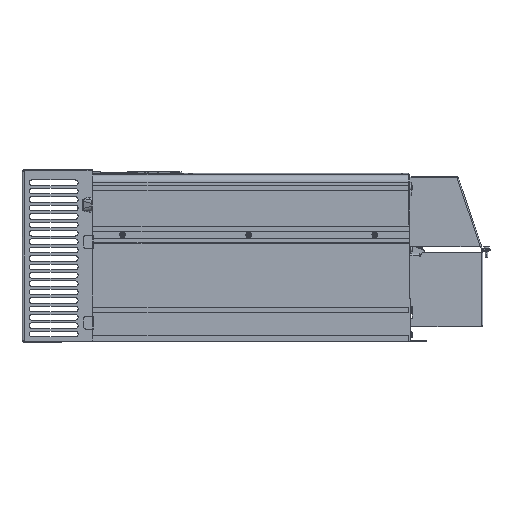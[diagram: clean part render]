
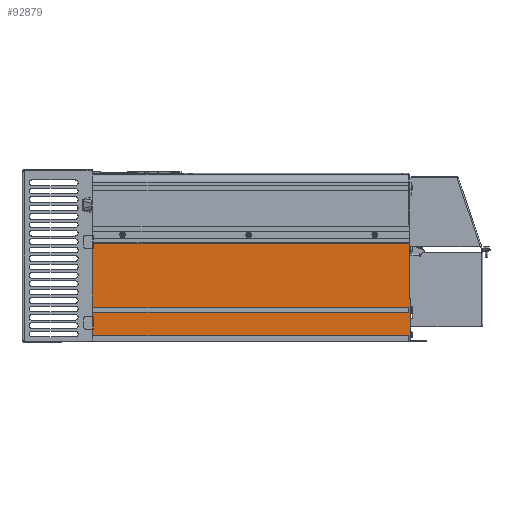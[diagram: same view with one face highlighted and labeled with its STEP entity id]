
A CAD part, left-side view. The second image highlights one B-rep face of the part: STEP entity #92879.
In plain terms, the highlighted planar face has unit normal (-1, 0, 0).
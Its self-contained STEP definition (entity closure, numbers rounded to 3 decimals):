
#3434=DIRECTION('',(0.,0.,1.));
#3435=VECTOR('',#3434,8.);
#3436=CARTESIAN_POINT('',(-115.,-227.95,1.1));
#3437=LINE('',#3436,#3435);
#3458=DIRECTION('',(0.,0.,1.));
#3459=VECTOR('',#3458,6.6);
#3460=CARTESIAN_POINT('',(-115.,-227.95,42.1));
#3461=LINE('',#3460,#3459);
#5283=DIRECTION('',(0.,-1.,0.));
#5284=VECTOR('',#5283,1.);
#5285=CARTESIAN_POINT('',(-115.,-229.45,62.5));
#5286=LINE('',#5285,#5284);
#5287=DIRECTION('',(0.,0.,-1.));
#5288=VECTOR('',#5287,60.);
#5289=CARTESIAN_POINT('',(-115.,-230.45,62.5));
#5290=LINE('',#5289,#5288);
#5291=DIRECTION('',(0.,-1.,0.));
#5292=VECTOR('',#5291,17.8);
#5293=CARTESIAN_POINT('',(-115.,-230.45,2.5));
#5294=LINE('',#5293,#5292);
#5295=DIRECTION('',(0.,0.,1.));
#5296=VECTOR('',#5295,2.5);
#5297=CARTESIAN_POINT('',(-115.,-248.25,0.));
#5298=LINE('',#5297,#5296);
#5299=DIRECTION('',(0.,0.,1.));
#5300=VECTOR('',#5299,1.);
#5301=CARTESIAN_POINT('',(-115.,211.75,0.));
#5302=LINE('',#5301,#5300);
#5303=DIRECTION('',(0.,1.,0.));
#5304=VECTOR('',#5303,12.);
#5305=CARTESIAN_POINT('',(-115.,211.75,1.));
#5306=LINE('',#5305,#5304);
#5307=DIRECTION('',(0.,0.,1.));
#5308=VECTOR('',#5307,1.);
#5309=CARTESIAN_POINT('',(-115.,223.75,0.));
#5310=LINE('',#5309,#5308);
#5311=DIRECTION('',(0.,-1.,0.));
#5312=VECTOR('',#5311,451.7);
#5313=CARTESIAN_POINT('',(-115.,223.75,1.1));
#5314=LINE('',#5313,#5312);
#5315=DIRECTION('',(0.,-1.,0.));
#5316=VECTOR('',#5315,451.7);
#5317=CARTESIAN_POINT('',(-115.,223.75,9.1));
#5318=LINE('',#5317,#5316);
#5319=DIRECTION('',(0.,0.,-1.));
#5320=VECTOR('',#5319,12.4);
#5321=CARTESIAN_POINT('',(-115.,223.75,21.5));
#5322=LINE('',#5321,#5320);
#5323=DIRECTION('',(0.,0.,-1.));
#5324=VECTOR('',#5323,8.6);
#5325=CARTESIAN_POINT('',(-115.,223.75,42.1));
#5326=LINE('',#5325,#5324);
#5327=DIRECTION('',(0.,-1.,0.));
#5328=VECTOR('',#5327,451.7);
#5329=CARTESIAN_POINT('',(-115.,223.75,42.1));
#5330=LINE('',#5329,#5328);
#5331=DIRECTION('',(0.,-1.,0.));
#5332=VECTOR('',#5331,451.7);
#5333=CARTESIAN_POINT('',(-115.,223.75,48.7));
#5334=LINE('',#5333,#5332);
#5335=DIRECTION('',(0.,0.,-1.));
#5336=VECTOR('',#5335,87.8);
#5337=CARTESIAN_POINT('',(-115.,223.75,136.5));
#5338=LINE('',#5337,#5336);
#6271=DIRECTION('',(0.,0.,-1.));
#6272=VECTOR('',#6271,12.);
#6273=CARTESIAN_POINT('',(-115.,223.75,33.5));
#6274=LINE('',#6273,#6272);
#6671=DIRECTION('',(0.,0.,1.));
#6672=VECTOR('',#6671,1.4);
#6673=CARTESIAN_POINT('',(-115.,223.75,1.1));
#6674=LINE('',#6673,#6672);
#6773=DIRECTION('',(0.,0.,-1.));
#6774=VECTOR('',#6773,4.6);
#6775=CARTESIAN_POINT('',(-115.,223.75,141.1));
#6776=LINE('',#6775,#6774);
#15772=DIRECTION('',(0.,0.,-1.));
#15773=VECTOR('',#15772,78.6);
#15774=CARTESIAN_POINT('',(-115.,-229.45,141.1));
#15775=LINE('',#15774,#15773);
#18558=DIRECTION('',(0.,1.,0.));
#18559=VECTOR('',#18558,33.);
#18560=CARTESIAN_POINT('',(-115.,226.75,2.5));
#18561=LINE('',#18560,#18559);
#18898=DIRECTION('',(0.,1.,0.));
#18899=VECTOR('',#18898,453.2);
#18900=CARTESIAN_POINT('',(-115.,-229.45,141.1));
#18901=LINE('',#18900,#18899);
#19186=DIRECTION('',(0.,1.,0.));
#19187=VECTOR('',#19186,3.);
#19188=CARTESIAN_POINT('',(-115.,223.75,2.5));
#19189=LINE('',#19188,#19187);
#37241=DIRECTION('',(0.,0.,1.));
#37242=VECTOR('',#37241,2.5);
#37243=CARTESIAN_POINT('',(-115.,259.75,0.));
#37244=LINE('',#37243,#37242);
#37301=DIRECTION('',(0.,-1.,0.));
#37302=VECTOR('',#37301,36.);
#37303=CARTESIAN_POINT('',(-115.,259.75,0.));
#37304=LINE('',#37303,#37302);
#37345=DIRECTION('',(0.,-1.,0.));
#37346=VECTOR('',#37345,460.);
#37347=CARTESIAN_POINT('',(-115.,211.75,0.));
#37348=LINE('',#37347,#37346);
#71776=CARTESIAN_POINT('',(-115.,223.75,136.5));
#71777=VERTEX_POINT('',#71776);
#71848=CARTESIAN_POINT('',(-115.,223.75,21.5));
#71850=VERTEX_POINT('',#71848);
#71852=CARTESIAN_POINT('',(-115.,223.75,33.5));
#71854=VERTEX_POINT('',#71852);
#73535=CARTESIAN_POINT('',(-115.,223.75,9.1));
#73536=VERTEX_POINT('',#73535);
#73541=CARTESIAN_POINT('',(-115.,223.75,141.1));
#73542=VERTEX_POINT('',#73541);
#73591=CARTESIAN_POINT('',(-115.,259.75,0.));
#73593=VERTEX_POINT('',#73591);
#73601=CARTESIAN_POINT('',(-115.,259.75,2.5));
#73603=VERTEX_POINT('',#73601);
#73609=CARTESIAN_POINT('',(-115.,226.75,2.5));
#73610=VERTEX_POINT('',#73609);
#73615=CARTESIAN_POINT('',(-115.,223.75,1.1));
#73616=CARTESIAN_POINT('',(-115.,223.75,2.5));
#73617=VERTEX_POINT('',#73615);
#73618=VERTEX_POINT('',#73616);
#73647=CARTESIAN_POINT('',(-115.,-227.95,1.1));
#73648=CARTESIAN_POINT('',(-115.,-227.95,9.1));
#73649=VERTEX_POINT('',#73647);
#73650=VERTEX_POINT('',#73648);
#73687=CARTESIAN_POINT('',(-115.,-248.25,2.5));
#73689=VERTEX_POINT('',#73687);
#73693=CARTESIAN_POINT('',(-115.,-248.25,0.));
#73694=VERTEX_POINT('',#73693);
#73703=CARTESIAN_POINT('',(-115.,-230.45,2.5));
#73704=VERTEX_POINT('',#73703);
#73751=CARTESIAN_POINT('',(-115.,-230.45,62.5));
#73752=VERTEX_POINT('',#73751);
#74949=CARTESIAN_POINT('',(-115.,223.75,48.7));
#74950=VERTEX_POINT('',#74949);
#74955=CARTESIAN_POINT('',(-115.,223.75,42.1));
#74956=VERTEX_POINT('',#74955);
#74965=CARTESIAN_POINT('',(-115.,-227.95,42.1));
#74966=CARTESIAN_POINT('',(-115.,-227.95,48.7));
#74967=VERTEX_POINT('',#74965);
#74968=VERTEX_POINT('',#74966);
#76569=CARTESIAN_POINT('',(-115.,211.75,1.));
#76570=CARTESIAN_POINT('',(-115.,223.75,1.));
#76571=VERTEX_POINT('',#76569);
#76572=VERTEX_POINT('',#76570);
#76573=CARTESIAN_POINT('',(-115.,211.75,0.));
#76574=VERTEX_POINT('',#76573);
#76575=CARTESIAN_POINT('',(-115.,223.75,0.));
#76576=VERTEX_POINT('',#76575);
#81939=CARTESIAN_POINT('',(-115.,-229.45,141.1));
#81940=VERTEX_POINT('',#81939);
#82007=CARTESIAN_POINT('',(-115.,-229.45,62.5));
#82009=VERTEX_POINT('',#82007);
#92823=CARTESIAN_POINT('',(-115.,223.75,227.));
#92824=DIRECTION('',(-1.,0.,0.));
#92825=DIRECTION('',(0.,0.,-1.));
#92826=AXIS2_PLACEMENT_3D('',#92823,#92824,#92825);
#92827=PLANE('',#92826);
#92829=ORIENTED_EDGE('',*,*,#92828,.F.);
#92831=ORIENTED_EDGE('',*,*,#92830,.T.);
#92833=ORIENTED_EDGE('',*,*,#92832,.T.);
#92834=ORIENTED_EDGE('',*,*,#88872,.T.);
#92836=ORIENTED_EDGE('',*,*,#92835,.T.);
#92838=ORIENTED_EDGE('',*,*,#92837,.F.);
#92840=ORIENTED_EDGE('',*,*,#92839,.F.);
#92842=ORIENTED_EDGE('',*,*,#92841,.T.);
#92844=ORIENTED_EDGE('',*,*,#92843,.T.);
#92846=ORIENTED_EDGE('',*,*,#92845,.F.);
#92848=ORIENTED_EDGE('',*,*,#92847,.F.);
#92850=ORIENTED_EDGE('',*,*,#92849,.T.);
#92852=ORIENTED_EDGE('',*,*,#92851,.F.);
#92854=ORIENTED_EDGE('',*,*,#92853,.F.);
#92856=ORIENTED_EDGE('',*,*,#92855,.F.);
#92858=ORIENTED_EDGE('',*,*,#92857,.T.);
#92859=ORIENTED_EDGE('',*,*,#89103,.T.);
#92861=ORIENTED_EDGE('',*,*,#92860,.F.);
#92863=ORIENTED_EDGE('',*,*,#92862,.F.);
#92865=ORIENTED_EDGE('',*,*,#92864,.F.);
#92867=ORIENTED_EDGE('',*,*,#92866,.F.);
#92869=ORIENTED_EDGE('',*,*,#92868,.T.);
#92870=ORIENTED_EDGE('',*,*,#89149,.T.);
#92872=ORIENTED_EDGE('',*,*,#92871,.F.);
#92874=ORIENTED_EDGE('',*,*,#92873,.F.);
#92876=ORIENTED_EDGE('',*,*,#92875,.F.);
#92877=EDGE_LOOP('',(#92829,#92831,#92833,#92834,#92836,#92838,#92840,#92842,
#92844,#92846,#92848,#92850,#92852,#92854,#92856,#92858,#92859,#92861,#92863,
#92865,#92867,#92869,#92870,#92872,#92874,#92876));
#92878=FACE_OUTER_BOUND('',#92877,.F.);
#92879=ADVANCED_FACE('',(#92878),#92827,.T.);
#88872=EDGE_CURVE('',#73752,#73704,#5290,.T.);
#89103=EDGE_CURVE('',#73649,#73650,#3437,.T.);
#89149=EDGE_CURVE('',#74967,#74968,#3461,.T.);
#92828=EDGE_CURVE('',#81940,#73542,#18901,.T.);
#92830=EDGE_CURVE('',#81940,#82009,#15775,.T.);
#92832=EDGE_CURVE('',#82009,#73752,#5286,.T.);
#92835=EDGE_CURVE('',#73704,#73689,#5294,.T.);
#92837=EDGE_CURVE('',#73694,#73689,#5298,.T.);
#92839=EDGE_CURVE('',#76574,#73694,#37348,.T.);
#92841=EDGE_CURVE('',#76574,#76571,#5302,.T.);
#92843=EDGE_CURVE('',#76571,#76572,#5306,.T.);
#92845=EDGE_CURVE('',#76576,#76572,#5310,.T.);
#92847=EDGE_CURVE('',#73593,#76576,#37304,.T.);
#92849=EDGE_CURVE('',#73593,#73603,#37244,.T.);
#92851=EDGE_CURVE('',#73610,#73603,#18561,.T.);
#92853=EDGE_CURVE('',#73618,#73610,#19189,.T.);
#92855=EDGE_CURVE('',#73617,#73618,#6674,.T.);
#92857=EDGE_CURVE('',#73617,#73649,#5314,.T.);
#92860=EDGE_CURVE('',#73536,#73650,#5318,.T.);
#92862=EDGE_CURVE('',#71850,#73536,#5322,.T.);
#92864=EDGE_CURVE('',#71854,#71850,#6274,.T.);
#92866=EDGE_CURVE('',#74956,#71854,#5326,.T.);
#92868=EDGE_CURVE('',#74956,#74967,#5330,.T.);
#92871=EDGE_CURVE('',#74950,#74968,#5334,.T.);
#92873=EDGE_CURVE('',#71777,#74950,#5338,.T.);
#92875=EDGE_CURVE('',#73542,#71777,#6776,.T.);
